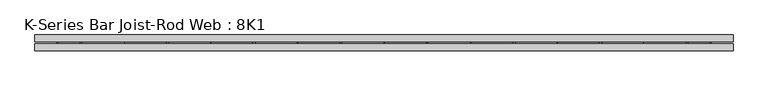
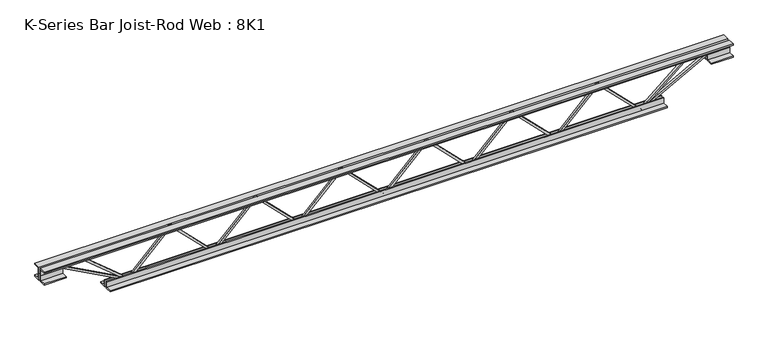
"""IFC4 building model written with IfcOpenShell, lengths in millimetres: beam geometry, K-Series Bar Joist-Rod Web : 8K1."""

from ifc_helpers import new_model, si_unit, frame, origin, place, context, project, spatial, polyline, outline, extrude, source, transform, mapped, element, save


def k_series_bar_joist_rod_web_8k1_291a3e72(model_context):
    return source(origin(), model_context, "Body", "SweptSolid", [
        extrude(outline(polyline([(-90.4875, 394.3021306), (-100.0125, 394.3021306), (-100.0125, 399.4476203), (90.4875, 590.2486857), (90.4875, 592.6577063), (-100.0125, 783.4587716), (-100.0125, 788.6042613), (-90.4875, 788.6042613), (-90.4875, 787.399751), (100.0125, 596.5986857), (100.0125, 586.3077063), (-90.4875, 395.506641), (-90.4875, 394.3021306)])), frame((0.0, -4.7625, 0.0), z_axis=(0.0, 1.0, 0.0), x_axis=(0.0, 0.0, 1.0)), (0.0, 0.0, 1.0), 9.525),
        extrude(outline(polyline([(-90.4875, 0.0), (-100.0125, 0.0), (-100.0125, 5.1454897), (90.4875, 195.946555), (90.4875, 198.3555756), (-100.0125, 389.156641), (-100.0125, 394.3021306), (-90.4875, 394.3021306), (-90.4875, 393.0976203), (100.0125, 202.296555), (100.0125, 192.0055756), (-90.4875, 1.2045103), (-90.4875, 0.0)])), frame((0.0, -4.7625, 0.0), z_axis=(0.0, 1.0, 0.0), x_axis=(0.0, 0.0, 1.0)), (0.0, 0.0, 1.0), 9.525),
        extrude(outline(polyline([(-90.4875, -394.3021306), (-100.0125, -394.3021306), (-100.0125, -389.156641), (90.4875, -198.3555756), (90.4875, -195.946555), (-100.0125, -5.1454897), (-100.0125, 0.0), (-90.4875, 0.0), (-90.4875, -1.2045103), (100.0125, -192.0055756), (100.0125, -202.296555), (-90.4875, -393.0976203), (-90.4875, -394.3021306)])), frame((0.0, -4.7625, 0.0), z_axis=(0.0, 1.0, 0.0), x_axis=(0.0, 0.0, 1.0)), (0.0, 0.0, 1.0), 9.525),
        extrude(outline(polyline([(-90.4875, -788.6042613), (-100.0125, -788.6042613), (-100.0125, -783.4587716), (90.4875, -592.6577063), (90.4875, -590.2486857), (-100.0125, -399.4476203), (-100.0125, -394.3021306), (-90.4875, -394.3021306), (-90.4875, -395.506641), (100.0125, -586.3077063), (100.0125, -596.5986857), (-90.4875, -787.399751), (-90.4875, -788.6042613)])), frame((0.0, -4.7625, 0.0), z_axis=(0.0, 1.0, 0.0), x_axis=(0.0, 0.0, 1.0)), (0.0, 0.0, 1.0), 9.525),
        extrude(outline(polyline([(-90.4875, 788.6042613), (-100.0125, 788.6042613), (-100.0125, 793.749751), (90.4875, 984.5508163), (90.4875, 986.9598369), (-100.0125, 1177.7609023), (-100.0125, 1182.9063919), (-90.4875, 1182.9063919), (-90.4875, 1181.7018816), (100.0125, 990.9008163), (100.0125, 980.6098369), (-90.4875, 789.8087716), (-90.4875, 788.6042613)])), frame((0.0, -4.7625, 0.0), z_axis=(0.0, 1.0, 0.0), x_axis=(0.0, 0.0, 1.0)), (0.0, 0.0, 1.0), 9.525),
        extrude(outline(polyline([(-90.4875, -1182.9063919), (-100.0125, -1182.9063919), (-100.0125, -1177.7609023), (90.4875, -986.9598369), (90.4875, -984.5508163), (-100.0125, -793.749751), (-100.0125, -788.6042613), (-90.4875, -788.6042613), (-90.4875, -789.8087716), (100.0125, -980.6098369), (100.0125, -990.9008163), (-90.4875, -1181.7018816), (-90.4875, -1182.9063919)])), frame((0.0, -4.7625, 0.0), z_axis=(0.0, 1.0, 0.0), x_axis=(0.0, 0.0, 1.0)), (0.0, 0.0, 1.0), 9.525),
        extrude(outline(polyline([(4.7625, 101.6), (36.5125, 101.6), (36.5125, 95.25), (11.1125, 95.25), (11.1125, 69.85), (4.7625, 69.85), (4.7625, 101.6)])), frame((-1589.3063919, 0.0, 0.0), z_axis=(1.0, 0.0, 0.0), x_axis=(0.0, 1.0, 0.0)), (0.0, 0.0, 1.0), 3178.6127839),
        extrude(outline(polyline([(-4.7625, 101.6), (-4.7625, 69.85), (-11.1125, 69.85), (-11.1125, 95.25), (-36.5125, 95.25), (-36.5125, 101.6), (-4.7625, 101.6)])), frame((-1589.3063919, 0.0, 0.0), z_axis=(1.0, 0.0, 0.0), x_axis=(0.0, 1.0, 0.0)), (0.0, 0.0, 1.0), 3178.6127839),
        extrude(outline(polyline([(-4.7625, 38.1), (-36.5125, 38.1), (-36.5125, 44.45), (-11.1125, 44.45), (-11.1125, 69.85), (-4.7625, 69.85), (-4.7625, 38.1)])), frame((-1589.3063919, 0.0, 0.0), z_axis=(1.0, 0.0, 0.0), x_axis=(0.0, 1.0, 0.0)), (0.0, 0.0, 1.0), 101.6),
        extrude(outline(polyline([(36.5125, 38.1), (4.7625, 38.1), (4.7625, 69.85), (11.1125, 69.85), (11.1125, 44.45), (36.5125, 44.45), (36.5125, 38.1)])), frame((-1589.3063919, 0.0, 0.0), z_axis=(1.0, 0.0, 0.0), x_axis=(0.0, 1.0, 0.0)), (0.0, 0.0, 1.0), 101.6),
        extrude(outline(polyline([(4.7625, 38.1), (4.7625, 69.85), (11.1125, 69.85), (11.1125, 44.45), (36.5125, 44.45), (36.5125, 38.1), (4.7625, 38.1)])), frame((1487.7063919, 0.0, 0.0), z_axis=(1.0, 0.0, 0.0), x_axis=(0.0, 1.0, 0.0)), (0.0, 0.0, 1.0), 101.6),
        extrude(outline(polyline([(-4.7625, 38.1), (-36.5125, 38.1), (-36.5125, 44.45), (-11.1125, 44.45), (-11.1125, 69.85), (-4.7625, 69.85), (-4.7625, 38.1)])), frame((1487.7063919, 0.0, 0.0), z_axis=(1.0, 0.0, 0.0), x_axis=(0.0, 1.0, 0.0)), (0.0, 0.0, 1.0), 101.6),
        extrude(outline(polyline([(4.7625, -101.6), (4.7625, -69.85), (11.1125, -69.85), (11.1125, -95.25), (36.5125, -95.25), (36.5125, -101.6), (4.7625, -101.6)])), frame((-1284.5063919, 0.0, 0.0), z_axis=(1.0, 0.0, 0.0), x_axis=(0.0, 1.0, 0.0)), (0.0, 0.0, 1.0), 2569.0127839),
        extrude(outline(polyline([(-4.7625, -101.6), (-36.5125, -101.6), (-36.5125, -95.25), (-11.1125, -95.25), (-11.1125, -69.85), (-4.7625, -69.85), (-4.7625, -101.6)])), frame((-1284.5063919, 0.0, 0.0), z_axis=(1.0, 0.0, 0.0), x_axis=(0.0, 1.0, 0.0)), (0.0, 0.0, 1.0), 2569.0127839),
        extrude(outline(polyline([(0.0, -9.525), (0.0, 0.0), (346.6425392, 0.0), (346.6425392, -9.525), (0.0, -9.525)])), frame((-1489.9746904, 4.7625, 65.662372), z_axis=(0.47628314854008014, 0.0, 0.8792919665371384), x_axis=(0.8792919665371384, 0.0, -0.47628314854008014)), (0.0, 0.0, 1.0), 9.525),
        extrude(outline(polyline([(0.0, -9.525), (0.0, 0.0), (257.1508363, 0.0), (257.1508363, -9.525), (0.0, -9.525)])), frame((-1383.115152, 4.7625, 66.1987113), z_axis=(0.6420356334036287, 0.0, 0.7666747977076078), x_axis=(0.7666747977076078, 0.0, -0.6420356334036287)), (0.0, 0.0, 1.0), 9.525),
        extrude(outline(polyline([(0.0, -9.525), (0.0, 0.0), (346.6425392, 0.0), (346.6425392, -9.525), (0.0, -9.525)])), frame((1489.9746904, -4.7625, 65.662372), z_axis=(-0.4762831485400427, 0.0, 0.8792919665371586), x_axis=(-0.8792919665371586, 0.0, -0.4762831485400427)), (0.0, 0.0, 1.0), 9.525),
        extrude(outline(polyline([(0.0, -9.525), (0.0, 0.0), (257.1508363, 0.0), (257.1508363, -9.525), (0.0, -9.525)])), frame((1383.115152, -4.7625, 66.1987113), z_axis=(-0.6420356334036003, 0.0, 0.7666747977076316), x_axis=(-0.7666747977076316, 0.0, -0.6420356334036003)), (0.0, 0.0, 1.0), 9.525),
    ])


if __name__ == "__main__":
    model = new_model("IFC4")
    model_context = context("Model", 3, world=origin())
    ifc_project = project(units=[si_unit("LENGTHUNIT", "METRE", prefix="MILLI")], contexts=[model_context])
    site = spatial("IfcSite", under=ifc_project)
    building = spatial("IfcBuilding", under=site)
    placement = place(None, origin())
    k_series_bar_joist_rod_web_8k1_shape = k_series_bar_joist_rod_web_8k1_291a3e72(model_context)
    element("IfcBeam", 1, ObjectType="K-Series Bar Joist-Rod Web : 8K1", at=placement, inside=building, context=model_context, shape_type="MappedRepresentation", body=[
        mapped(k_series_bar_joist_rod_web_8k1_shape, transform((0.0, 0.0, 0.0), x_axis=(1.0, 0.0, 0.0), y_axis=(0.0, 1.0, 0.0), z_axis=(0.0, 0.0, 1.0))),
    ])
    save(model, "model.ifc")
